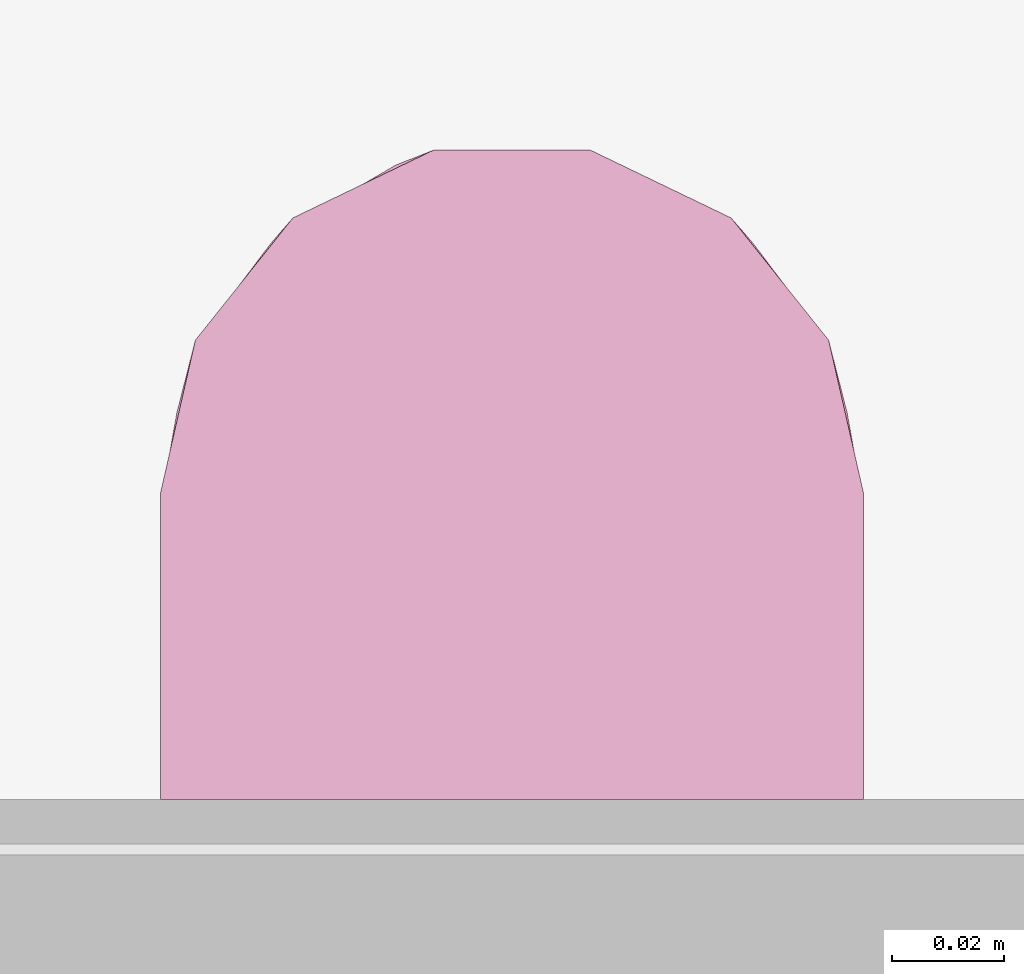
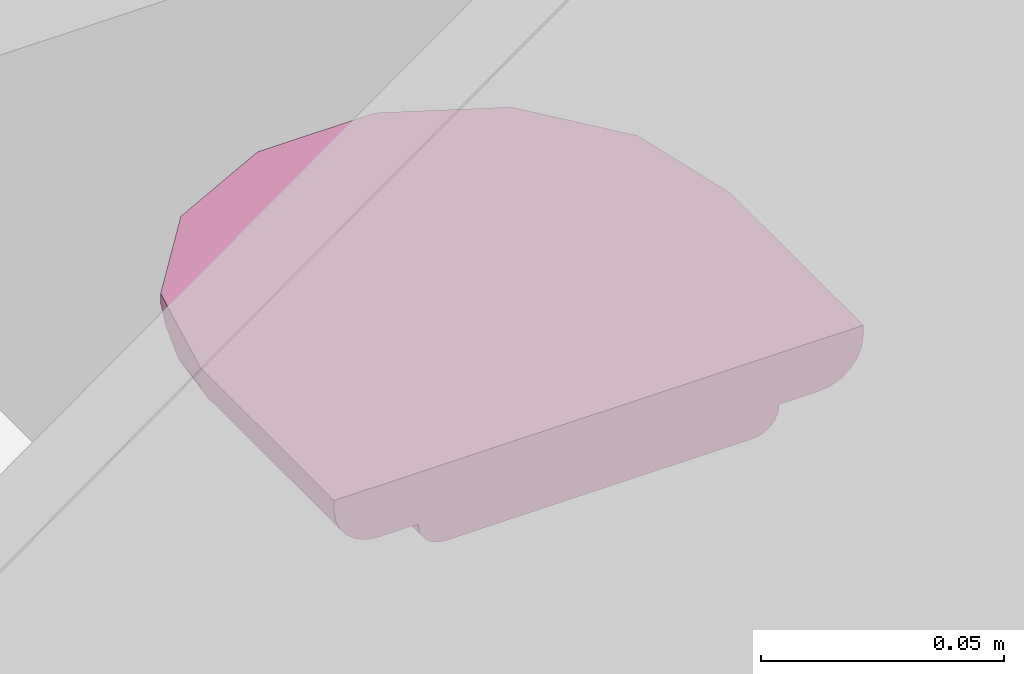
# One storey, part 45 of 48: 1 furniture element.
"""IFC4 building model written with IfcOpenShell, lengths in metres."""

from ifc_helpers import new_model, entity, si_unit, converted_unit, derived_unit, direction, frame, origin, place, context, subcontext, project, spatial, polygons, source, transform, mapped, material, type_object, type_shapes, element, save


model = new_model("IFC4")

# Units and contexts
model_context = context("Model", 3, precision=1e-05, world=origin(), true_north=direction((6.123031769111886e-17, 1.0)))
body_context = subcontext(model_context, "Body", "Model", "MODEL_VIEW")
ifc_project = project(units=[si_unit("LENGTHUNIT", "METRE"), si_unit("AREAUNIT", "SQUARE_METRE"), si_unit("VOLUMEUNIT", "CUBIC_METRE"), converted_unit("PLANEANGLEUNIT", "DEGREE", entity("IfcRatioMeasure", 0.017453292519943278), si_unit("PLANEANGLEUNIT", "RADIAN"), dimensions=[0, 0, 0, 0, 0, 0, 0]), si_unit("MASSUNIT", "GRAM", prefix="KILO"), derived_unit("MASSDENSITYUNIT", [(si_unit("MASSUNIT", "GRAM", prefix="KILO"), 1), (si_unit("LENGTHUNIT", "METRE"), -3)]), derived_unit("IONCONCENTRATIONUNIT", [(si_unit("MASSUNIT", "GRAM", prefix="KILO"), 1), (si_unit("LENGTHUNIT", "METRE"), -3)]), derived_unit("MOMENTOFINERTIAUNIT", [(si_unit("LENGTHUNIT", "METRE"), 4)]), si_unit("TIMEUNIT", "SECOND"), si_unit("FREQUENCYUNIT", "HERTZ"), si_unit("THERMODYNAMICTEMPERATUREUNIT", "DEGREE_CELSIUS"), derived_unit("THERMALTRANSMITTANCEUNIT", [(si_unit("MASSUNIT", "GRAM", prefix="KILO"), 1), (si_unit("THERMODYNAMICTEMPERATUREUNIT", "KELVIN"), -1), (si_unit("TIMEUNIT", "SECOND"), -3)]), derived_unit("THERMALCONDUCTANCEUNIT", [(si_unit("MASSUNIT", "GRAM", prefix="KILO"), 1), (si_unit("THERMODYNAMICTEMPERATUREUNIT", "KELVIN"), -1), (si_unit("TIMEUNIT", "SECOND"), -3), (si_unit("LENGTHUNIT", "METRE"), 1)]), derived_unit("VOLUMETRICFLOWRATEUNIT", [(si_unit("LENGTHUNIT", "METRE"), 3), (si_unit("TIMEUNIT", "SECOND"), -1)]), derived_unit("MASSFLOWRATEUNIT", [(si_unit("MASSUNIT", "GRAM", prefix="KILO"), 1), (si_unit("TIMEUNIT", "SECOND"), -1)]), derived_unit("ROTATIONALFREQUENCYUNIT", [(si_unit("TIMEUNIT", "SECOND"), -1)]), si_unit("ELECTRICCURRENTUNIT", "AMPERE"), si_unit("ELECTRICVOLTAGEUNIT", "VOLT"), si_unit("POWERUNIT", "WATT"), si_unit("FORCEUNIT", "NEWTON", prefix="KILO"), si_unit("ILLUMINANCEUNIT", "LUX"), si_unit("LUMINOUSFLUXUNIT", "LUMEN"), si_unit("LUMINOUSINTENSITYUNIT", "CANDELA"), derived_unit("USERDEFINED", [(si_unit("MASSUNIT", "GRAM", prefix="KILO"), -1), (si_unit("LENGTHUNIT", "METRE"), -2), (si_unit("TIMEUNIT", "SECOND"), 3), (si_unit("LUMINOUSFLUXUNIT", "LUMEN"), 1)]), derived_unit("USERDEFINED", [(si_unit("MASSUNIT", "GRAM", prefix="KILO"), 1), (si_unit("TIMEUNIT", "SECOND"), -3), (si_unit("LENGTHUNIT", "METRE"), 3), (si_unit("ELECTRICCURRENTUNIT", "AMPERE"), -2)]), derived_unit("SOUNDPOWERUNIT", [(si_unit("MASSUNIT", "GRAM", prefix="KILO"), 1), (si_unit("TIMEUNIT", "SECOND"), -3), (si_unit("LENGTHUNIT", "METRE"), 2)]), derived_unit("SOUNDPRESSUREUNIT", [(si_unit("MASSUNIT", "GRAM", prefix="KILO"), 1), (si_unit("LENGTHUNIT", "METRE"), -1), (si_unit("TIMEUNIT", "SECOND"), -2)]), derived_unit("LINEARVELOCITYUNIT", [(si_unit("LENGTHUNIT", "METRE"), 1), (si_unit("TIMEUNIT", "SECOND"), -1)]), si_unit("PRESSUREUNIT", "PASCAL"), derived_unit("USERDEFINED", [(si_unit("MASSUNIT", "GRAM", prefix="KILO"), 1), (si_unit("LENGTHUNIT", "METRE"), -2), (si_unit("TIMEUNIT", "SECOND"), -2)]), derived_unit("LINEARFORCEUNIT", [(si_unit("MASSUNIT", "GRAM", prefix="KILO"), 1), (si_unit("TIMEUNIT", "SECOND"), -2)]), derived_unit("PLANARFORCEUNIT", [(si_unit("MASSUNIT", "GRAM", prefix="KILO"), 1), (si_unit("LENGTHUNIT", "METRE"), -1), (si_unit("TIMEUNIT", "SECOND"), -2)]), derived_unit("SPECIFICHEATCAPACITYUNIT", [(si_unit("THERMODYNAMICTEMPERATUREUNIT", "KELVIN"), -1), (si_unit("LENGTHUNIT", "METRE"), 2), (si_unit("TIMEUNIT", "SECOND"), -2)]), derived_unit("HEATINGVALUEUNIT", [(si_unit("LENGTHUNIT", "METRE"), 2), (si_unit("TIMEUNIT", "SECOND"), -2)]), derived_unit("VAPORPERMEABILITYUNIT", [(si_unit("LENGTHUNIT", "METRE"), -1), (si_unit("TIMEUNIT", "SECOND"), 1)]), derived_unit("DYNAMICVISCOSITYUNIT", [(si_unit("MASSUNIT", "GRAM", prefix="KILO"), 1), (si_unit("TIMEUNIT", "SECOND"), -1), (si_unit("LENGTHUNIT", "METRE"), -1)]), derived_unit("THERMALEXPANSIONCOEFFICIENTUNIT", [(si_unit("THERMODYNAMICTEMPERATUREUNIT", "KELVIN"), -1)]), derived_unit("MODULUSOFELASTICITYUNIT", [(si_unit("MASSUNIT", "GRAM", prefix="KILO"), 1), (si_unit("LENGTHUNIT", "METRE"), -1), (si_unit("TIMEUNIT", "SECOND"), -2)]), derived_unit("ISOTHERMALMOISTURECAPACITYUNIT", [(si_unit("LENGTHUNIT", "METRE"), 3), (si_unit("MASSUNIT", "GRAM", prefix="KILO"), -1)]), derived_unit("MOISTUREDIFFUSIVITYUNIT", [(si_unit("TIMEUNIT", "SECOND"), -1), (si_unit("LENGTHUNIT", "METRE"), 2)])], contexts=[model_context])

# Site, building, storey, space
site_placement = place(None, origin())
site = spatial("IfcSite", under=ifc_project, at=site_placement, Name="Default", CompositionType="ELEMENT")
building_placement = place(site_placement, origin())
building = spatial("IfcBuilding", under=site, at=building_placement, CompositionType="ELEMENT")
storey_placement = place(building_placement, frame((0.0, 0.0, 4.700000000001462)))
storey = spatial("IfcBuildingStorey", under=building, at=storey_placement, Name="Nivel 3", CompositionType="ELEMENT", Elevation=4.700000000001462)
space_placement = place(storey_placement, origin())
space = spatial("IfcSpace", under=storey, at=space_placement, Name="144", CompositionType="ELEMENT", PredefinedType="SPACE")

# Furniture
ifc_material = material(Name="CERAMICA APARATOS", Category="Materials")
furniture_type = type_object("IfcFurnitureType", Name="E2050 - Jabonera:E2050 - Jabonera - Ceramica", AssemblyPlace="NOTDEFINED", PredefinedType="NOTDEFINED", material=ifc_material)
shared_shape = source(origin(), body_context, "Body", "Tessellation", [
    polygons([(-0.05252423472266, 0.012920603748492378, -3.986425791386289e-15), (-0.04300000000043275, 0.012920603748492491, -4.002540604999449e-15), (-0.04277987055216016, 0.014592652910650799, -4.026034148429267e-15), (-0.042134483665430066, 0.01615075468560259, -4.0486715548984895e-15), (-0.04110782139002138, 0.017488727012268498, -4.068910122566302e-15), (-0.03976984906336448, 0.018515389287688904, -4.08537062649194e-15), (-0.03821174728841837, 0.019160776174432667, -4.096931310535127e-15), (-0.0365396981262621, 0.019380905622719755, -4.102804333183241e-15), (0.03653969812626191, 0.019380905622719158, -4.22645320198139e-15), (0.03821174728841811, 0.019160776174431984, -4.226238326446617e-15), (0.03976984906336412, 0.018515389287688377, -4.219950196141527e-15), (0.041107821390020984, 0.01748872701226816, -4.20801733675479e-15), (0.04213448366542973, 0.01615075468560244, -4.191252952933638e-15), (0.042779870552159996, 0.01459265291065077, -4.170799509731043e-15), (0.04300000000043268, 0.012920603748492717, -4.14805087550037e-15), (0.05252423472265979, 0.012920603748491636, -4.164165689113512e-15), (0.055235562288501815, 0.012563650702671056, -4.163817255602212e-15), (0.05776211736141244, 0.011517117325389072, -4.153620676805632e-15), (0.059931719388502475, 0.009852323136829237, -4.134270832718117e-15), (0.06159651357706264, 0.007682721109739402, -4.107086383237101e-15), (0.06264304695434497, 0.0051561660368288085, -4.073919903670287e-15), (0.06300000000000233, 0.002444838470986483, -4.037031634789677e-15), (0.06300000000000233, 9.226522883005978e-15, -4.003224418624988e-15), (-0.0630000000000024, 8.82367512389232e-15, -3.79003495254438e-15), (-0.06300000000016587, 0.002444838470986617, -3.8238421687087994e-15), (-0.06264304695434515, 0.005156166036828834, -3.8619383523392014e-15), (-0.06159651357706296, 0.007682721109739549, -3.898646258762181e-15), (-0.059931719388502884, 0.00985232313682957, -3.931464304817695e-15), (-0.05776211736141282, 0.011517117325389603, -3.958155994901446e-15), (-0.05523556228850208, 0.012563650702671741, -3.97690233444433e-15), (-0.06300000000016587, 0.0024448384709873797, 0.05500000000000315), (-0.06264304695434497, 0.005156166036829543, 0.05500000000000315), (-0.06159651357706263, 0.007682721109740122, 0.05500000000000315), (-0.0599317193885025, 0.009852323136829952, 0.05500000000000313), (-0.05776211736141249, 0.011517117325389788, 0.05500000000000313), (-0.05523556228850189, 0.012563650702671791, 0.05500000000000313), (-0.052524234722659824, 0.012920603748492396, 0.05500000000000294), (-0.0630000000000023, 9.584537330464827e-15, 0.05500000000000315), (0.06300000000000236, 9.987488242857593e-15, 0.055000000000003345), (0.05676103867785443, 1.0345736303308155e-14, 0.08233467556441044), (0.03927985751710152, 1.0593134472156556e-14, 0.1042553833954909), (0.014018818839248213, 1.0680682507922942e-14, 0.11642045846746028), (-0.014018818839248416, 1.0591040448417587e-14, 0.11642045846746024), (-0.03927985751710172, 1.0341963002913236e-14, 0.10425538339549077), (-0.05676103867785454, 9.98278301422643e-15, 0.08233467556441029), (-0.04300000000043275, 0.012920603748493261, 0.055000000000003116), (-0.042779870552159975, 0.014592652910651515, 0.055000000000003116), (-0.04213448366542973, 0.016150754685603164, 0.055000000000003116), (-0.04110782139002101, 0.017488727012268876, 0.055000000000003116), (-0.03976984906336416, 0.018515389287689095, 0.055000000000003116), (-0.03821174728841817, 0.019160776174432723, 0.055000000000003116), (-0.03653969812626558, 0.019380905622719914, 0.055000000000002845), (-0.0473227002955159, 0.012920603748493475, 0.07778941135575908), (-0.0327483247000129, 0.012920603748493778, 0.09606510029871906), (-0.011687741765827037, 0.012920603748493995, 0.10620734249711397), (0.011687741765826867, 0.012920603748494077, 0.106207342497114), (0.03274832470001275, 0.012920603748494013, 0.09606510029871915), (0.04732270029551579, 0.012920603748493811, 0.0777894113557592), (0.05252423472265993, 0.012920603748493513, 0.05500000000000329), (0.04300000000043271, 0.012920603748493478, 0.055000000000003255), (0.03723909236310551, 0.012920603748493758, 0.07650000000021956), (0.021500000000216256, 0.012920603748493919, 0.09223909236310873), (-7.613909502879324e-17, 0.012920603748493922, 0.09800000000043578), (-0.021500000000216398, 0.012920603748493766, 0.09223909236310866), (-0.03723909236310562, 0.012920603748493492, 0.07650000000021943), (-0.056761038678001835, 0.002444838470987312, 0.08233467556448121), (-0.03927985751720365, 0.002444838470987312, 0.10425538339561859), (-0.01401881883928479, 0.002444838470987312, 0.11642045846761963), (0.014018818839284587, 0.002444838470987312, 0.11642045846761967), (0.039279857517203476, 0.002444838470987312, 0.10425538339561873), (0.05676103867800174, 0.002444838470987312, 0.08233467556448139), (0.06300000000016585, 0.002444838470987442, 0.055000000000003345), (0.06264304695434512, 0.005156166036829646, 0.055000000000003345), (0.06159651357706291, 0.007682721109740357, 0.05500000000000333), (0.059931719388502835, 0.009852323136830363, 0.055000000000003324), (0.05776211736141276, 0.011517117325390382, 0.05500000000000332), (0.05523556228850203, 0.012563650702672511, 0.05500000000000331), (-0.05541537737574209, 0.00994065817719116, 0.0775884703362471), (0.05541537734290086, 0.009940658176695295, 0.07758847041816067), (-0.060688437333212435, 0.002444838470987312, 0.06512761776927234), (0.060688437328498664, 0.002444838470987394, 0.06512761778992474), (-0.06009482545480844, 0.0073735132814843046, 0.06927989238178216), (0.06009482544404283, 0.007373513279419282, 0.06927989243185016), (1.1920939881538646e-10, 0.009647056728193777, 0.11513144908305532), (-0.02296028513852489, 0.010016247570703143, 0.11017763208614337), (0.022960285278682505, 0.010016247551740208, 0.11017763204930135), (-0.0423486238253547, 0.010229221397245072, 0.09684448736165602), (0.04234862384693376, 0.010229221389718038, 0.09684448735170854), (-0.049923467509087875, 0.012920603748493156, 0.06639470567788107), (0.04992346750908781, 0.012920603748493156, 0.06639470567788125), (-0.05703578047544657, 0.0065083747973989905, 0.07976375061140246), (-0.048020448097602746, 0.002444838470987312, 0.0932950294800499), (-0.05024267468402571, 0.007894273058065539, 0.09041697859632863), (-0.04930529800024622, 0.01152280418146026, 0.08507175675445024), (-0.04320181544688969, 0.006488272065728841, 0.09973226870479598), (-0.026649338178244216, 0.002444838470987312, 0.11033792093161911), (-0.033651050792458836, 0.008354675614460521, 0.10608663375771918), (-0.033585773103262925, 0.011709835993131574, 0.10156463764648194), (-0.04003551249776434, 0.012920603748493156, 0.08692725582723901), (-0.020861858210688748, 0.0061859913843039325, 0.11371301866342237), (-0.008798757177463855, 0.006760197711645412, 0.11644307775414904), (-1.0151879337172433e-16, 0.002444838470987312, 0.11642045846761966), (-0.011582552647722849, 0.010395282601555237, 0.1132044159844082), (-8.671396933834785e-17, 0.012920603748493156, 0.10620734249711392), (0.005858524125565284, 0.012067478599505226, 0.1113613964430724), (0.011714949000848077, 0.009815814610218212, 0.11381264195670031), (0.01809843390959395, 0.006648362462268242, 0.11442472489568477), (0.026649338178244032, 0.002444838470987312, 0.11033792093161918), (0.033532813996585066, 0.007293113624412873, 0.10692394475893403), (0.03311804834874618, 0.010897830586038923, 0.10347984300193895), (0.05703578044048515, 0.006508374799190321, 0.07976375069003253), (0.0480204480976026, 0.002444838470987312, 0.09329502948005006), (0.050242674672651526, 0.007894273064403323, 0.09041697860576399), (0.04930529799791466, 0.01152280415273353, 0.08507175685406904), (0.043201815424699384, 0.006488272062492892, 0.09973226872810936), (-0.022218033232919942, 0.012920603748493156, 0.10113622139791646), (0.02221803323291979, 0.012920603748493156, 0.10113622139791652), (0.04003551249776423, 0.012920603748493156, 0.08692725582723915), (-0.05917785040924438, 0.002444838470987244, 0.07174593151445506), (-0.05988051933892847, 9.58464048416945e-15, 0.06866733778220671), (-0.04802044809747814, 9.584640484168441e-15, 0.09329502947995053), (-0.02664933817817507, 9.584640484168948e-15, 0.11033792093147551), (-1.0151879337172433e-16, 9.584640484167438e-15, 0.11642045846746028), (0.026649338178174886, 9.584640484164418e-15, 0.1103379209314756), (0.048020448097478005, 9.584640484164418e-15, 0.09329502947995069), (0.05917785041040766, 9.584600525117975e-15, 0.07174593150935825), (0.05988051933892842, 0.002444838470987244, 0.06866733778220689), (0.04277987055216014, 0.014592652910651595, 0.05500000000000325), (0.04213448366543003, 0.01615075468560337, 0.05500000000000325), (0.041107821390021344, 0.01748872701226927, 0.05500000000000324), (0.03976984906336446, 0.01851538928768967, 0.055000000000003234), (0.03821174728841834, 0.01916077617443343, 0.05500000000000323), (0.036539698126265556, 0.019380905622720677, 0.05500000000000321), (0.035294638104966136, 0.019380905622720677, 0.06445716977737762), (0.03164430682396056, 0.019380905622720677, 0.07326984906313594), (0.025837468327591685, 0.019380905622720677, 0.08083746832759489), (0.018269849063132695, 0.019380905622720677, 0.08664430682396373), (0.00945716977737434, 0.019380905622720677, 0.09029463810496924), (-6.388409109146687e-17, 0.019380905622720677, 0.09153969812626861), (-0.009457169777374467, 0.019380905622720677, 0.09029463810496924), (-0.018269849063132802, 0.019380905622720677, 0.08664430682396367), (-0.025837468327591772, 0.019380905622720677, 0.08083746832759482), (-0.031644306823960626, 0.019380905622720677, 0.07326984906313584), (-0.03529463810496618, 0.019380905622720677, 0.0644571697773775), (-0.039354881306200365, 0.01681536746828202, 0.06876876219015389), (0.039354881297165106, 0.016815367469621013, 0.0687687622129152), (-0.03969397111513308, 0.012920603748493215, 0.06733826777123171), (0.03969397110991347, 0.012920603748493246, 0.06733826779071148), (-0.029990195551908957, 0.017045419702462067, 0.0837021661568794), (0.02999019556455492, 0.017045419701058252, 0.08370216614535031), (-0.014068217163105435, 0.017293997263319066, 0.09382432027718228), (0.0140682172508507, 0.01729399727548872, 0.0938243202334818), (-0.0414288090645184, 0.016256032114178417, 0.06233060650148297), (0.04142880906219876, 0.016256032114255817, 0.06233060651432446), (-0.03509474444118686, 0.018469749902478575, 0.07387308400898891), (0.03509474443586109, 0.018469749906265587, 0.07387308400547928), (-0.022452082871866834, 0.018468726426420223, 0.08792225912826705), (-0.004758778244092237, 0.018468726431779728, 0.09456419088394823), (0.022452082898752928, 0.018468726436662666, 0.08792225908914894), (-0.010750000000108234, 0.012920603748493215, 0.09511954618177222), (-0.01649269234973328, 0.014958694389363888, 0.09435387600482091), (-0.02403627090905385, 0.015817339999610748, 0.08982450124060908), (-0.029369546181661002, 0.012920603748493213, 0.08436954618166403), (-0.005391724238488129, 0.015874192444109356, 0.09694013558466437), (0.003951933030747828, 0.017201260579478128, 0.09618908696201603), (-0.029447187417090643, 0.018870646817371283, 0.08065629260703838), (0.029447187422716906, 0.018870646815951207, 0.08065629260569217), (0.004753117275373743, 0.01891047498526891, 0.09366878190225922), (0.01247662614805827, 0.01887114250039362, 0.09200843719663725), (-0.013974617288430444, 0.018938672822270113, 0.09129118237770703), (0.021812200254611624, 0.016118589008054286, 0.09107073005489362), (-0.035603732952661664, 0.016145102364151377, 0.07753804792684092), (0.03560373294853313, 0.01614510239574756, 0.07753804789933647), (-0.0379779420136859, 0.01877351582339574, 0.06500795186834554), (0.03797794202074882, 0.018773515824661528, 0.06500795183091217), (0.029369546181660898, 0.012920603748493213, 0.08436954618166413), (0.010750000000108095, 0.012920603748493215, 0.09511954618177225)], [[[25, 26, 27, 28, 29, 30, 1, 2, 3, 4, 5, 6, 7, 8, 9, 10, 11, 12, 13, 14, 15, 16, 17, 18, 19, 20, 21, 22, 23, 24]], [[36, 37, 1, 30]], [[51, 52, 8, 7]], [[35, 36, 30, 29]], [[50, 51, 7, 6]], [[28, 34, 35, 29]], [[5, 49, 50, 6]], [[32, 33, 27, 26]], [[4, 3, 47, 48]], [[31, 32, 26, 25]], [[2, 46, 47, 3]], [[27, 33, 34, 28]], [[4, 48, 49, 5]], [[38, 31, 25, 24]], [[23, 39, 126, 40, 125, 41, 124, 42, 123, 43, 122, 44, 121, 45, 120, 38, 24]], [[59, 16, 15, 60, 148, 61, 176, 62, 177, 63, 160, 64, 163, 65, 147, 46, 2, 1, 37, 89, 53, 99, 54, 116, 55, 104, 56, 117, 57, 118, 58, 90]], [[141, 140, 139, 138, 137, 136, 135, 134, 133, 9, 8, 52, 144, 143, 142]], [[36, 35, 78]], [[79, 77, 90]], [[93, 87, 94]], [[89, 94, 53]], [[32, 31, 80]], [[80, 82, 32]], [[87, 99, 94]], [[81, 72, 73]], [[86, 107, 109]], [[54, 98, 116]], [[33, 32, 82]], [[92, 95, 93]], [[93, 94, 78]], [[82, 35, 34]], [[66, 92, 91]], [[87, 95, 97]], [[33, 82, 34]], [[82, 78, 35]], [[78, 82, 91]], [[82, 80, 119, 66]], [[91, 82, 66]], [[88, 115, 113]], [[103, 104, 55]], [[87, 93, 95]], [[106, 86, 105]], [[78, 91, 93]], [[97, 85, 98]], [[110, 118, 57]], [[79, 76, 77]], [[109, 88, 110]], [[97, 95, 67]], [[79, 90, 114]], [[84, 106, 105]], [[75, 76, 83]], [[78, 89, 36]], [[108, 107, 69]], [[79, 113, 111]], [[77, 59, 90]], [[111, 83, 79]], [[100, 68, 101]], [[76, 79, 83]], [[83, 71, 127, 81]], [[101, 102, 84]], [[73, 83, 81]], [[75, 83, 74]], [[89, 37, 36]], [[84, 103, 101]], [[103, 84, 105]], [[113, 79, 114]], [[74, 83, 73]], [[93, 91, 92]], [[78, 94, 89]], [[98, 99, 87]], [[96, 68, 100]], [[67, 95, 92]], [[97, 98, 87]], [[85, 97, 100]], [[96, 97, 67]], [[94, 99, 53]], [[55, 116, 103]], [[96, 100, 97]], [[99, 98, 54]], [[100, 101, 103]], [[85, 100, 103]], [[116, 85, 103]], [[84, 107, 106]], [[101, 68, 102]], [[103, 105, 104]], [[117, 110, 57]], [[56, 104, 105]], [[56, 105, 86]], [[106, 107, 86]], [[84, 102, 107]], [[109, 107, 108]], [[69, 107, 102]], [[70, 109, 108]], [[86, 109, 110]], [[112, 71, 111]], [[117, 86, 110]], [[118, 114, 58]], [[111, 71, 83]], [[113, 114, 88]], [[88, 109, 115]], [[113, 112, 111]], [[70, 112, 115]], [[118, 88, 114]], [[58, 114, 90]], [[113, 115, 112]], [[70, 115, 109]], [[85, 116, 98]], [[117, 56, 86]], [[88, 118, 110]], [[119, 80, 31, 38, 120, 45, 66]], [[67, 92, 66, 45, 121, 44]], [[127, 71, 40, 126, 39, 72, 81]], [[122, 43, 68, 96, 67, 44]], [[69, 102, 68, 43, 123, 42]], [[108, 69, 42, 124, 41, 70]], [[125, 40, 71, 112, 70, 41]], [[174, 144, 52]], [[168, 138, 139]], [[175, 156, 146]], [[174, 155, 144]], [[157, 141, 142]], [[162, 161, 151]], [[157, 170, 141]], [[47, 46, 147]], [[174, 145, 155]], [[134, 135, 156]], [[149, 157, 166]], [[170, 140, 141]], [[65, 145, 147]], [[150, 176, 173]], [[153, 48, 47]], [[162, 64, 161]], [[50, 49, 153]], [[164, 63, 165]], [[142, 143, 166]], [[157, 162, 151]], [[156, 150, 173]], [[175, 146, 154]], [[148, 60, 128]], [[153, 174, 50]], [[136, 159, 167]], [[51, 50, 174]], [[158, 170, 151]], [[164, 158, 151]], [[169, 165, 152]], [[146, 156, 173]], [[149, 155, 172]], [[137, 159, 136]], [[167, 135, 136]], [[154, 146, 148]], [[175, 134, 156]], [[145, 172, 155]], [[129, 154, 128]], [[169, 152, 159]], [[143, 155, 166]], [[132, 133, 175]], [[130, 131, 154]], [[153, 147, 145]], [[48, 153, 49]], [[171, 159, 152]], [[129, 130, 154]], [[131, 175, 154]], [[149, 163, 162]], [[177, 62, 171]], [[61, 148, 146]], [[139, 140, 158]], [[160, 161, 64]], [[128, 154, 148]], [[164, 161, 160]], [[143, 144, 155]], [[147, 153, 47]], [[169, 168, 165]], [[150, 156, 167]], [[171, 176, 150]], [[151, 161, 164]], [[163, 172, 65]], [[149, 162, 157]], [[163, 64, 162]], [[158, 164, 165]], [[63, 164, 160]], [[168, 139, 158]], [[165, 177, 152]], [[142, 166, 157]], [[149, 166, 155]], [[135, 167, 156]], [[150, 167, 159]], [[169, 138, 168]], [[165, 168, 158]], [[169, 137, 138]], [[137, 169, 159]], [[140, 170, 158]], [[151, 170, 157]], [[159, 171, 150]], [[177, 165, 63]], [[149, 172, 163]], [[172, 145, 65]], [[173, 61, 146]], [[152, 177, 171]], [[153, 145, 174]], [[51, 174, 52]], [[134, 175, 133]], [[132, 175, 131]], [[61, 173, 176]], [[176, 171, 62]], [[17, 16, 59, 77]], [[10, 9, 133, 132]], [[18, 17, 77, 76]], [[11, 10, 132, 131]], [[75, 19, 18, 76]], [[130, 12, 11, 131]], [[21, 20, 74, 73]], [[129, 128, 14, 13]], [[22, 21, 73, 72]], [[60, 15, 14, 128]], [[74, 20, 19, 75]], [[129, 13, 12, 130]], [[22, 72, 39, 23]]], closed=True),
])
type_shapes(furniture_type, [shared_shape])
furniture_placement = place(space_placement, frame((3.1975010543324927, -6.355000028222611, 1.24999999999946), z_axis=(0.0, 1.0, 0.0), x_axis=(1.0, 0.0, 0.0)))
element("IfcFurniture", 1, at=furniture_placement, inside=space, type_object=furniture_type, material=ifc_material, Name="E2050 - Jabonera:E2050 - Jabonera - Ceramica", ObjectType="E2050 - Jabonera:E2050 - Jabonera - Ceramica", PredefinedType="NOTDEFINED", context=body_context, shape_type="MappedRepresentation", body=[
    mapped(shared_shape, transform((0.0, 0.0, 0.0), scale=1.0)),
])

save(model, "model.ifc")
